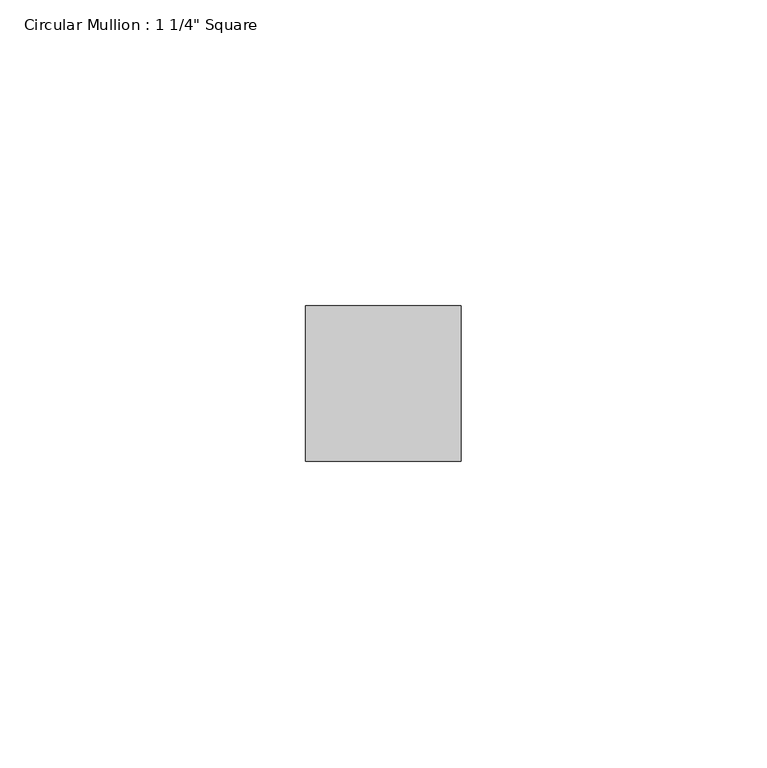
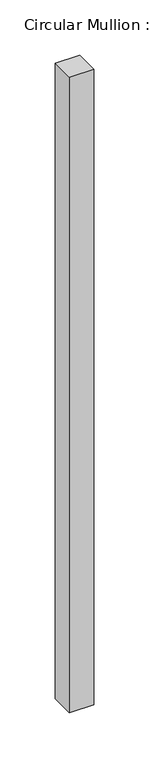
"""IFC4 building model written with IfcOpenShell, lengths in millimetres: member geometry."""

import ifcopenshell
import ifcopenshell.guid

model = None  # the IFC model being written
_history = None  # IfcOwnerHistory: only IFC2X3 demands one
_inside = {}  # id of a spatial element -> (the spatial element, [elements in it])
_under = {}  # id of a project, library or spatial element -> (it, [spatial elements below it])
_declared = {}  # id of a project -> (the project, [libraries it declares])
_typed = {}  # id of a type object -> (the type object, [elements of that type])
_made_of = {}  # id of a material, layer set ... -> (it, [elements and type objects made of it])


def new_model(schema):
    """Start an empty IFC model of exactly this schema.

    Asked for "IFC4X3", IfcOpenShell would pick the latest addendum, in which some entities
    have other attributes; the version numbers below select the first issue.
    IFC2X3 requires an IfcOwnerHistory on every rooted entity: one is made here for all.
    """
    global model, _history
    if schema == "IFC4X3":
        model = ifcopenshell.file(schema_version=(4, 3, 0, 0))
    else:
        model = ifcopenshell.file(schema=schema)
    _inside.clear()
    _under.clear()
    _declared.clear()
    _typed.clear()
    _made_of.clear()
    _history = None
    if model.schema == "IFC2X3":
        org = make("IfcOrganization", Name="unknown")
        user = make(
            "IfcPersonAndOrganization",
            ThePerson=make("IfcPerson", FamilyName="unknown"),
            TheOrganization=org,
        )
        app = make(
            "IfcApplication",
            ApplicationDeveloper=org,
            Version="unknown",
            ApplicationFullName="unknown",
            ApplicationIdentifier="unknown",
        )
        _history = make(
            "IfcOwnerHistory",
            OwningUser=user,
            OwningApplication=app,
            ChangeAction="ADDED",
            CreationDate=0,
        )
    return model


def make(cls, **values):
    """One entity of the class cls with the attributes given. An attribute that is None is left unset."""
    return model.create_entity(
        cls, **{name: value for name, value in values.items() if value is not None}
    )


def rooted(cls, **values):
    """An entity with a GlobalId (a new one), such as an element, a storey or a relation."""
    return make(cls, GlobalId=ifcopenshell.guid.new(), OwnerHistory=_history, **values)


def si_unit(unit_type, name, prefix=None):
    """IfcSIUnit, for example si_unit("LENGTHUNIT", "METRE", prefix="MILLI")."""
    return make("IfcSIUnit", UnitType=unit_type, Prefix=prefix, Name=name)


def assignment(units):
    """IfcUnitAssignment: the units of a project."""
    return None if units is None else make("IfcUnitAssignment", Units=units)


def point(xyz):
    """IfcCartesianPoint."""
    return None if xyz is None else make("IfcCartesianPoint", Coordinates=xyz)


def direction(xyz):
    """IfcDirection."""
    return None if xyz is None else make("IfcDirection", DirectionRatios=xyz)


def frame(location, z_axis=None, x_axis=None):
    """IfcAxis2Placement3D, a coordinate frame: its origin and axes. An axis left out is left unset."""
    return make(
        "IfcAxis2Placement3D",
        Location=point(location),
        Axis=direction(z_axis),
        RefDirection=direction(x_axis),
    )


def origin():
    """The frame at (0, 0, 0) with its axes left unset."""
    return frame((0.0, 0.0, 0.0))


def place(relative_to, where):
    """IfcLocalPlacement: puts the frame where relative to a parent placement (None: the world)."""
    return make(
        "IfcLocalPlacement", PlacementRelTo=relative_to, RelativePlacement=where
    )


def context(
    kind, dimensions, precision=None, world=None, true_north=None, identifier=None
):
    """IfcGeometricRepresentationContext, for example the 3D "Model" context."""
    return make(
        "IfcGeometricRepresentationContext",
        ContextIdentifier=identifier,
        ContextType=kind,
        CoordinateSpaceDimension=dimensions,
        Precision=precision,
        WorldCoordinateSystem=world,
        TrueNorth=true_north,
    )


def project(units=None, contexts=None):
    """IfcProject with its units and contexts."""
    return rooted(
        "IfcProject",
        Name="project",
        RepresentationContexts=contexts,
        UnitsInContext=assignment(units),
    )


def spatial(cls, under=None, at=None, **own):
    """A site, building, storey or space (cls), placed at a placement, below another one or the project."""
    s = rooted(cls, ObjectPlacement=at, **own)
    if under is not None:
        _under.setdefault(under.id(), (under, []))[1].append(s)
    return s


def polyline(points):
    """IfcPolyline through the points."""
    return make("IfcPolyline", Points=[point(p) for p in points])


def outline(outer, holes=None, kind="AREA"):
    """IfcArbitraryClosedProfileDef: a profile drawn as a closed curve; with holes, ...WithVoids."""
    if holes is None:
        return make("IfcArbitraryClosedProfileDef", ProfileType=kind, OuterCurve=outer)
    return make(
        "IfcArbitraryProfileDefWithVoids",
        ProfileType=kind,
        OuterCurve=outer,
        InnerCurves=holes,
    )


def extrude(swept, where, along, depth):
    """IfcExtrudedAreaSolid: the profile swept, set in the frame where, extruded along a direction by depth."""
    return make(
        "IfcExtrudedAreaSolid",
        SweptArea=swept,
        Position=where,
        ExtrudedDirection=direction(along),
        Depth=depth,
    )


def shape(context_of_items, identifier, shape_type, items):
    """IfcShapeRepresentation: the items that make up one representation, for example the "Body"."""
    return make(
        "IfcShapeRepresentation",
        ContextOfItems=context_of_items,
        RepresentationIdentifier=identifier,
        RepresentationType=shape_type,
        Items=items,
    )


def source(mapping_origin, context_of_items, identifier, shape_type, items):
    """IfcRepresentationMap: a shape defined once, which mapped items show again and again."""
    return make(
        "IfcRepresentationMap",
        MappingOrigin=mapping_origin,
        MappedRepresentation=shape(context_of_items, identifier, shape_type, items),
    )


def transform(
    local_origin,
    x_axis=None,
    y_axis=None,
    z_axis=None,
    scale=None,
    scale2=None,
    scale3=None,
    uniform=True,
):
    """IfcCartesianTransformationOperator3D, or its non-uniform kind. x_axis, y_axis, z_axis: its Axis1, 2, 3."""
    if uniform:
        return make(
            "IfcCartesianTransformationOperator3D",
            Axis1=direction(x_axis),
            Axis2=direction(y_axis),
            LocalOrigin=point(local_origin),
            Scale=scale,
            Axis3=direction(z_axis),
        )
    return make(
        "IfcCartesianTransformationOperator3DnonUniform",
        Axis1=direction(x_axis),
        Axis2=direction(y_axis),
        LocalOrigin=point(local_origin),
        Scale=scale,
        Axis3=direction(z_axis),
        Scale2=scale2,
        Scale3=scale3,
    )


def mapped(mapping_source, mapping_target):
    """IfcMappedItem: shows the shape of a source again, moved by a transform."""
    return make(
        "IfcMappedItem", MappingSource=mapping_source, MappingTarget=mapping_target
    )


def made_of(thing, what):
    """Note that an element or type object is made of a material, layer set ...; save() writes the relation."""
    if what is not None:
        _made_of.setdefault(what.id(), (what, []))[1].append(thing)
    return thing


def element(
    cls,
    number,
    at=None,
    inside=None,
    cuts=None,
    type_object=None,
    material=None,
    context=None,
    identifier="Body",
    shape_type=None,
    held_by="IfcProductDefinitionShape",
    body=None,
    shapes=None,
    **own,
):
    """One element of the class cls, such as IfcWall. Its Tag is "e" and its number.

    at: its placement. inside: the storey or other place that contains it. cuts: it is an
    opening in that element (IfcRelVoidsElement). A single representation is given by context,
    identifier, shape_type and body (its items); several are given by shapes. held_by: the class
    of the entity that holds the representations. save() writes the other relations.
    """
    e = rooted(cls, Tag="e%d" % number, ObjectPlacement=at, **own)
    if body is not None:
        shapes = [shape(context, identifier, shape_type, body)]
    if shapes is not None:
        e.Representation = make(held_by, Representations=shapes)
    if inside is not None:
        _inside.setdefault(inside.id(), (inside, []))[1].append(e)
    if cuts is not None:
        rooted(
            "IfcRelVoidsElement", RelatingBuildingElement=cuts, RelatedOpeningElement=e
        )
    if type_object is not None:
        _typed.setdefault(type_object.id(), (type_object, []))[1].append(e)
    return made_of(e, material)


def aggregate(whole, parts):
    """IfcRelAggregates: a whole, such as a stair, and the parts it consists of."""
    return rooted("IfcRelAggregates", RelatingObject=whole, RelatedObjects=parts)


def save(model, path):
    """Write the relations noted so far, then the file.

    IfcRelAggregates (storeys below a building ...), IfcRelContainedInSpatialStructure (elements
    in a storey), IfcRelDefinesByType, IfcRelAssociatesMaterial and IfcRelDeclares: one each for
    every whole, place, type object, material and project.
    """
    for whole, parts in _under.values():
        aggregate(whole, parts)
    for where, things in _inside.values():
        rooted(
            "IfcRelContainedInSpatialStructure",
            RelatedElements=things,
            RelatingStructure=where,
        )
    for kind, things in _typed.values():
        rooted("IfcRelDefinesByType", RelatedObjects=things, RelatingType=kind)
    for what, things in _made_of.values():
        rooted("IfcRelAssociatesMaterial", RelatedObjects=things, RelatingMaterial=what)
    for by, libraries in _declared.values():
        rooted("IfcRelDeclares", RelatingContext=by, RelatedDefinitions=libraries)
    model.write(path)


def member_aef483ff(model_context):
    return source(origin(), model_context, "Body", "SweptSolid", [
        extrude(outline(polyline([(12.7, 12.7), (12.7, -12.7), (-12.7, -12.7), (-12.7, 12.7), (12.7, 12.7)])), frame((0.0, 0.0, -701.8598407), z_axis=(0.0, 0.0, 1.0), x_axis=(1.0, 0.0, 0.0)), (0.0, 0.0, 1.0), 701.8598407),
    ])


if __name__ == "__main__":
    model = new_model("IFC4")
    model_context = context("Model", 3, world=origin())
    ifc_project = project(units=[si_unit("LENGTHUNIT", "METRE", prefix="MILLI")], contexts=[model_context])
    site = spatial("IfcSite", under=ifc_project)
    building = spatial("IfcBuilding", under=site)
    placement = place(None, origin())
    member_shape = member_aef483ff(model_context)
    element("IfcMember", 1, ObjectType="Circular Mullion : 1 1/4\" Square", at=placement, inside=building, context=model_context, shape_type="MappedRepresentation", body=[
        mapped(member_shape, transform((0.0, 0.0, 0.0), x_axis=(1.0, 0.0, 0.0), y_axis=(0.0, 1.0, 0.0), z_axis=(0.0, 0.0, 1.0))),
    ])
    save(model, "model.ifc")
